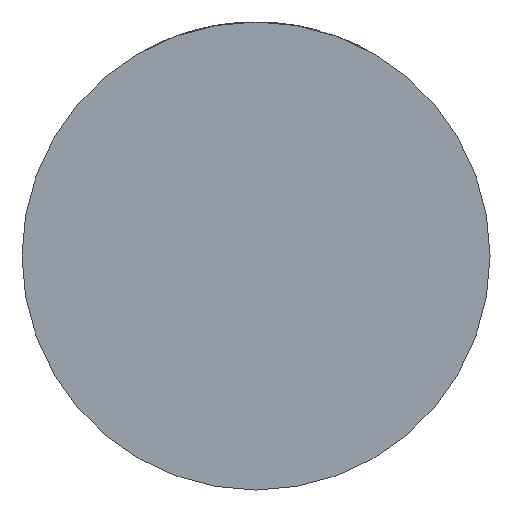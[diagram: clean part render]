
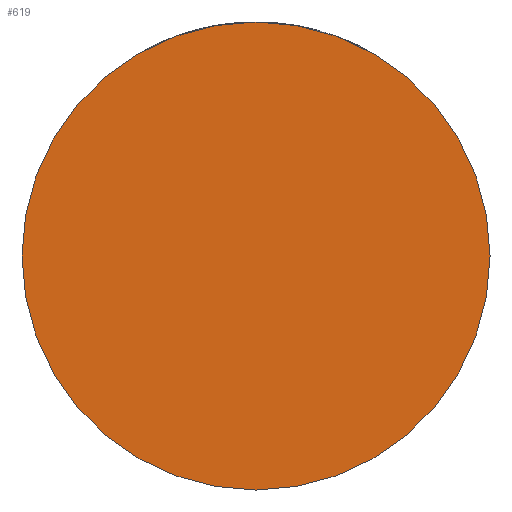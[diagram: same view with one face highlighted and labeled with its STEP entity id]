
A CAD part, front view. The second image highlights one B-rep face of the part: STEP entity #619.
In plain terms, the highlighted planar face has unit normal (0, -1, 0).
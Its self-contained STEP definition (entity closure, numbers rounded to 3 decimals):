
#541 = VERTEX_POINT ( 'NONE', #3044 ) ;
#619 = ADVANCED_FACE ( 'NONE', ( #1031 ), #2025, .T. ) ;
#944 = DIRECTION ( 'NONE',  ( 1., 0., 0. ) ) ;
#1031 = FACE_OUTER_BOUND ( 'NONE', #2199, .T. ) ;
#1568 = VERTEX_POINT ( 'NONE', #2214 ) ;
#1574 = CIRCLE ( 'NONE', #3016, 39. ) ;
#1615 = ORIENTED_EDGE ( 'NONE', *, *, #4245, .T. ) ;
#1773 = CARTESIAN_POINT ( 'NONE',  ( 0., -36., 0. ) ) ;
#1839 = DIRECTION ( 'NONE',  ( 1., 0., 0. ) ) ;
#2025 = PLANE ( 'NONE',  #3891 ) ;
#2199 = EDGE_LOOP ( 'NONE', ( #1615, #2348 ) ) ;
#2214 = CARTESIAN_POINT ( 'NONE',  ( 39., -36., 0. ) ) ;
#2224 = CARTESIAN_POINT ( 'NONE',  ( 0., -36., 0. ) ) ;
#2348 = ORIENTED_EDGE ( 'NONE', *, *, #2598, .T. ) ;
#2376 = DIRECTION ( 'NONE',  ( 0., -1., 0. ) ) ;
#2598 = EDGE_CURVE ( 'NONE', #1568, #541, #1574, .T. ) ;
#2786 = DIRECTION ( 'NONE',  ( 0., -1., 0. ) ) ;
#2922 = DIRECTION ( 'NONE',  ( 0., -1., 0. ) ) ;
#3016 = AXIS2_PLACEMENT_3D ( 'NONE', #1773, #2786, #1839 ) ;
#3044 = CARTESIAN_POINT ( 'NONE',  ( -39., -36., 0. ) ) ;
#3192 = CIRCLE ( 'NONE', #4197, 39. ) ;
#3286 = DIRECTION ( 'NONE',  ( 1., 0., 0. ) ) ;
#3403 = CARTESIAN_POINT ( 'NONE',  ( 0., -36., 0. ) ) ;
#3891 = AXIS2_PLACEMENT_3D ( 'NONE', #3403, #2376, #944 ) ;
#4197 = AXIS2_PLACEMENT_3D ( 'NONE', #2224, #2922, #3286 ) ;
#4245 = EDGE_CURVE ( 'NONE', #541, #1568, #3192, .T. ) ;
